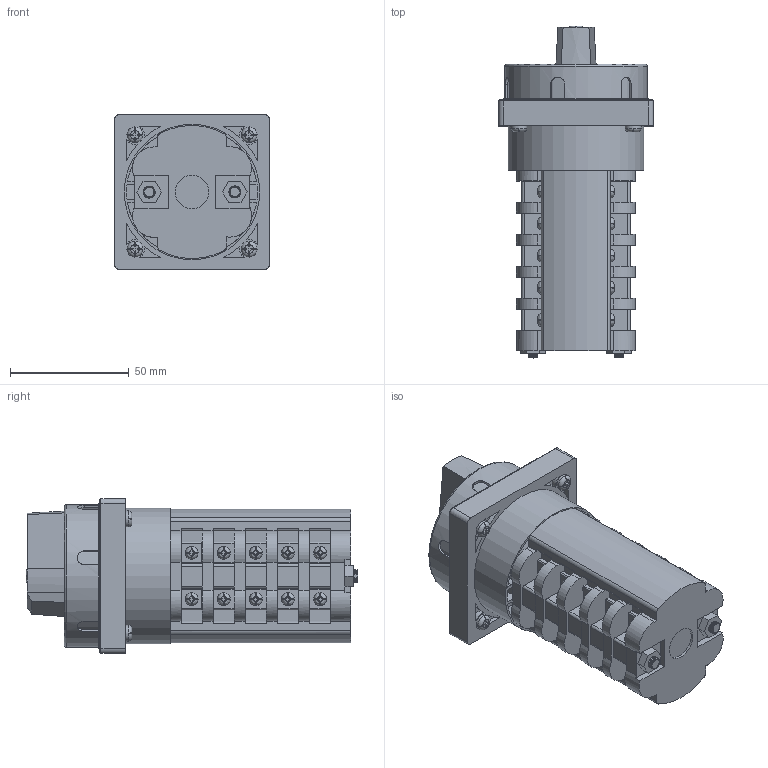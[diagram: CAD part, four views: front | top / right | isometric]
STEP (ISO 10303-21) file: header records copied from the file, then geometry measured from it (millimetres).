
FILE_DESCRIPTION(/* description */ (''),/* implementation_level */ '2;1');
FILE_NAME(/* name */ '4G16,25_S6_5_korpusow.stp',/* time_stamp */ '2021-07-21T09:41:16+02:00',/* author */ (''),/* organization */ (''),/* preprocessor_version */ 'ST-DEVELOPER v18.1',/* originating_system */ 'SIEMENS PLM Software NX 1965',/* authorisation */ '');
FILE_SCHEMA (('AUTOMOTIVE_DESIGN { 1 0 10303 214 3 1 1 1 }'));
Products named in the file (1): 4G16,25_S6_5_korpusow_stp
Bounding box: 65 x 139.6 x 65 mm (x, y, z)
Volume: 263192.6 mm3; surface area: 60514 mm2
Topology: 2 solids, 11 shells, 1389 faces, 3884 edges, 2551 vertices
Faces by surface type: plane 799, cylinder 384, bspline 139, cone 46, torus 15, extrusion 6
Full cylindrical faces by diameter (mm): 2.9 x7, 3.1 x1, 4.3 x4, 5 x2, 5.4 x21, 5.6 x1, 6 x1, 6.7 x4, 7.2 x4, 8 x1, 14 x1, 55.8 x1, 57 x1, 58 x1, 60 x1
Entity records: 129139 total; most frequent: CARTESIAN_POINT 95221, ORIENTED_EDGE 7436, DIRECTION 6311, EDGE_CURVE 3718, VERTEX_POINT 2472, AXIS2_PLACEMENT_3D 2250, VECTOR 1811, LINE 1805
